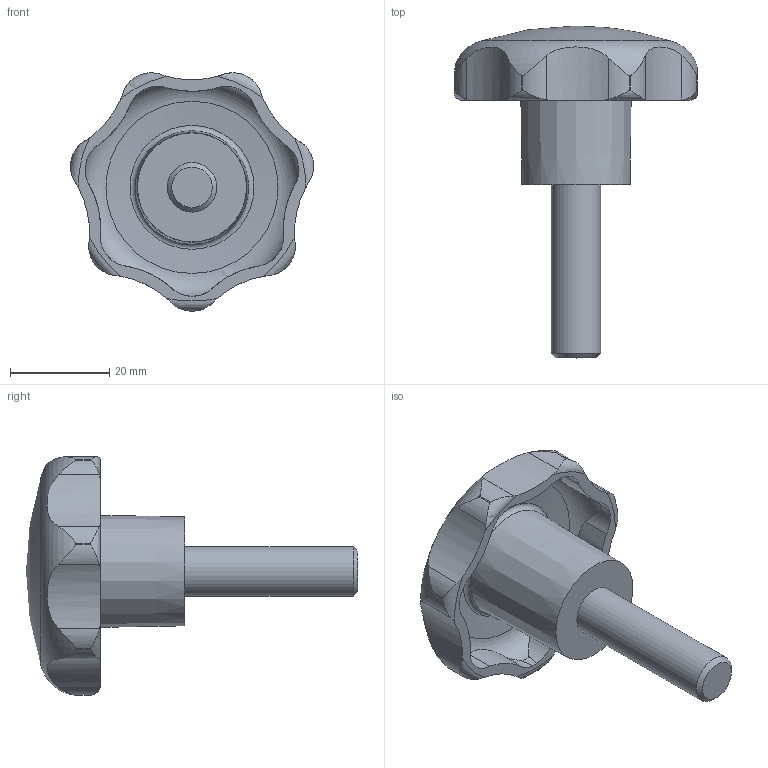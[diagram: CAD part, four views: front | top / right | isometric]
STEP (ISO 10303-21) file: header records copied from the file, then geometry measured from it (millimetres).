
FILE_DESCRIPTION( ( 'STEP AP203' ), '1' );
FILE_NAME( 'C:/Temp/Ganter_Step_05_03_2020/data/2_2/gn_6336_4/gn_6336_4_st/Star knob GN 6336.4-ST-50-M10-35.stp', '2020-03-05T12:07:38', ( 'License CC BY-ND 4.0' ), ( 'CADENAS' ), ' ', 'PARTsolutions', ' ' );
FILE_SCHEMA( ( 'CONFIG_CONTROL_DESIGN' ) );
Length unit declared in the file: millimetre
Products named in the file (1): _Star knob GN 6336.4-ST-50-M10-35
Bounding box: 49.04 x 67 x 48.12 mm (x, y, z)
Volume: 23896.8 mm3; surface area: 8548.9 mm2
Topology: 1 solids, 1 shells, 74 faces, 209 edges, 138 vertices
Faces by surface type: cylinder 50, torus 10, cone 10, plane 3, sphere 1
Full cylindrical faces by diameter (mm): 10 x1
Entity records: 3234 total; most frequent: CARTESIAN_POINT 1425, ORIENTED_EDGE 394, DIRECTION 334, EDGE_CURVE 197, AXIS2_PLACEMENT_3D 146, VERTEX_POINT 135, B_SPLINE_CURVE_WITH_KNOTS 84, EDGE_LOOP 83
